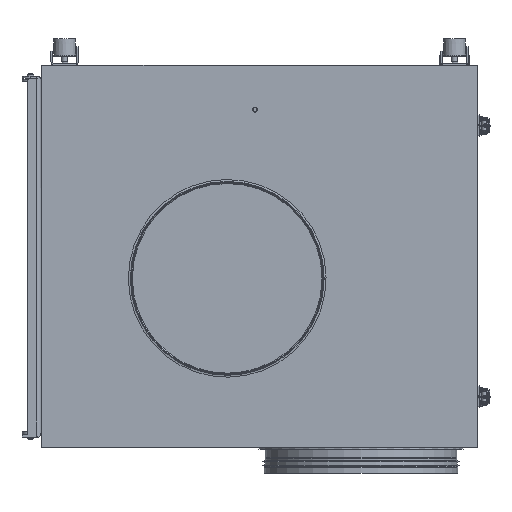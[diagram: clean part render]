
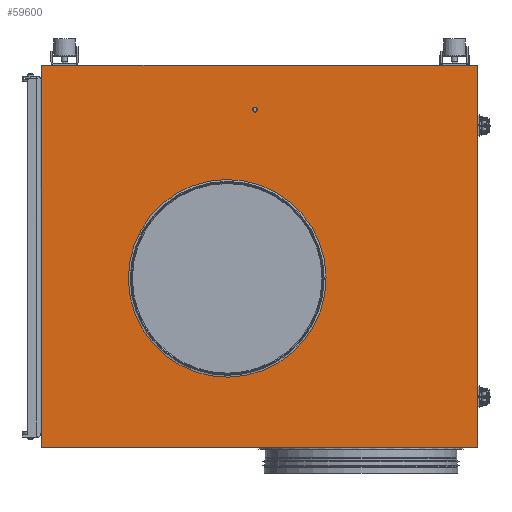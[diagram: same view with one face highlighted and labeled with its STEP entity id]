
A CAD part, left-side view. The second image highlights one B-rep face of the part: STEP entity #59600.
In plain terms, the highlighted planar face has unit normal (-1, 0, 0).
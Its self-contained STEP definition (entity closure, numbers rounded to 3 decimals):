
#4652=LINE('',#81186,#10577);
#4653=LINE('',#81188,#10578);
#4654=LINE('',#81190,#10579);
#4655=LINE('',#81192,#10580);
#4656=LINE('',#81194,#10581);
#4657=LINE('',#81196,#10582);
#4658=LINE('',#81198,#10583);
#4659=LINE('',#81199,#10584);
#10577=VECTOR('',#67008,10.);
#10578=VECTOR('',#67009,10.);
#10579=VECTOR('',#67010,10.);
#10580=VECTOR('',#67011,10.);
#10581=VECTOR('',#67012,10.);
#10582=VECTOR('',#67013,10.);
#10583=VECTOR('',#67014,10.);
#10584=VECTOR('',#67015,10.);
#16503=PLANE('',#62870);
#18607=FACE_BOUND('',#22172,.T.);
#18608=FACE_BOUND('',#22173,.T.);
#18922=FACE_OUTER_BOUND('',#22171,.T.);
#22171=EDGE_LOOP('',(#41676,#41677,#41678,#41679,#41680,#41681,#41682,#41683));
#22172=EDGE_LOOP('',(#41684));
#22173=EDGE_LOOP('',(#41685));
#25729=CIRCLE('',#62868,4.5);
#25730=CIRCLE('',#62871,175.3);
#27100=VERTEX_POINT('',#81180);
#27101=VERTEX_POINT('',#81184);
#27102=VERTEX_POINT('',#81185);
#27103=VERTEX_POINT('',#81187);
#27104=VERTEX_POINT('',#81189);
#27105=VERTEX_POINT('',#81191);
#27106=VERTEX_POINT('',#81193);
#27107=VERTEX_POINT('',#81195);
#27108=VERTEX_POINT('',#81197);
#27109=VERTEX_POINT('',#81200);
#32898=EDGE_CURVE('',#27100,#27100,#25729,.T.);
#32899=EDGE_CURVE('',#27101,#27102,#4652,.T.);
#32900=EDGE_CURVE('',#27103,#27101,#4653,.T.);
#32901=EDGE_CURVE('',#27104,#27103,#4654,.T.);
#32902=EDGE_CURVE('',#27105,#27104,#4655,.T.);
#32903=EDGE_CURVE('',#27106,#27105,#4656,.T.);
#32904=EDGE_CURVE('',#27107,#27106,#4657,.T.);
#32905=EDGE_CURVE('',#27108,#27107,#4658,.T.);
#32906=EDGE_CURVE('',#27102,#27108,#4659,.T.);
#32907=EDGE_CURVE('',#27109,#27109,#25730,.T.);
#41676=ORIENTED_EDGE('',*,*,#32899,.F.);
#41677=ORIENTED_EDGE('',*,*,#32900,.F.);
#41678=ORIENTED_EDGE('',*,*,#32901,.F.);
#41679=ORIENTED_EDGE('',*,*,#32902,.F.);
#41680=ORIENTED_EDGE('',*,*,#32903,.F.);
#41681=ORIENTED_EDGE('',*,*,#32904,.F.);
#41682=ORIENTED_EDGE('',*,*,#32905,.F.);
#41683=ORIENTED_EDGE('',*,*,#32906,.F.);
#41684=ORIENTED_EDGE('',*,*,#32907,.F.);
#41685=ORIENTED_EDGE('',*,*,#32898,.T.);
#59600=ADVANCED_FACE('',(#18922,#18607,#18608),#16503,.T.);
#62868=AXIS2_PLACEMENT_3D('',#81181,#67002,#67003);
#62870=AXIS2_PLACEMENT_3D('',#81183,#67006,#67007);
#62871=AXIS2_PLACEMENT_3D('',#81201,#67016,#67017);
#67002=DIRECTION('center_axis',(1.,0.,0.));
#67003=DIRECTION('ref_axis',(0.,0.,-1.));
#67006=DIRECTION('center_axis',(-1.,0.,0.));
#67007=DIRECTION('ref_axis',(0.,0.,1.));
#67008=DIRECTION('',(0.,-1.,0.));
#67009=DIRECTION('',(0.,0.,1.));
#67010=DIRECTION('',(0.,1.,0.));
#67011=DIRECTION('',(0.,0.,-1.));
#67012=DIRECTION('',(0.,-1.,0.));
#67013=DIRECTION('',(0.,-1.,0.));
#67014=DIRECTION('',(0.,-1.,0.));
#67015=DIRECTION('',(0.,-1.,0.));
#67016=DIRECTION('center_axis',(-1.,0.,0.));
#67017=DIRECTION('ref_axis',(0.,1.,0.));
#81180=CARTESIAN_POINT('',(0.,408.5,624.));
#81181=CARTESIAN_POINT('Origin',(0.,408.5,
619.5));
#81183=CARTESIAN_POINT('Origin',(0.,400.,
350.5));
#81184=CARTESIAN_POINT('',(0.,800.,701.));
#81185=CARTESIAN_POINT('',(0.,776.,701.));
#81186=CARTESIAN_POINT('',(0.,800.,701.));
#81187=CARTESIAN_POINT('',(0.,800.,0.));
#81188=CARTESIAN_POINT('',(0.,800.,0.));
#81189=CARTESIAN_POINT('',(0.,0.,0.));
#81190=CARTESIAN_POINT('',(0.,0.,0.));
#81191=CARTESIAN_POINT('',(0.,0.,701.));
#81192=CARTESIAN_POINT('',(0.,0.,701.));
#81193=CARTESIAN_POINT('',(0.,24.,701.));
#81194=CARTESIAN_POINT('',(0.,800.,701.));
#81195=CARTESIAN_POINT('',(0.,62.,701.));
#81196=CARTESIAN_POINT('',(0.,221.5,701.));
#81197=CARTESIAN_POINT('',(0.,738.,701.));
#81198=CARTESIAN_POINT('',(0.,800.,701.));
#81199=CARTESIAN_POINT('',(0.,578.5,701.));
#81200=CARTESIAN_POINT('',(0.,283.93,310.556));
#81201=CARTESIAN_POINT('Origin',(0.,459.23,
310.556));
